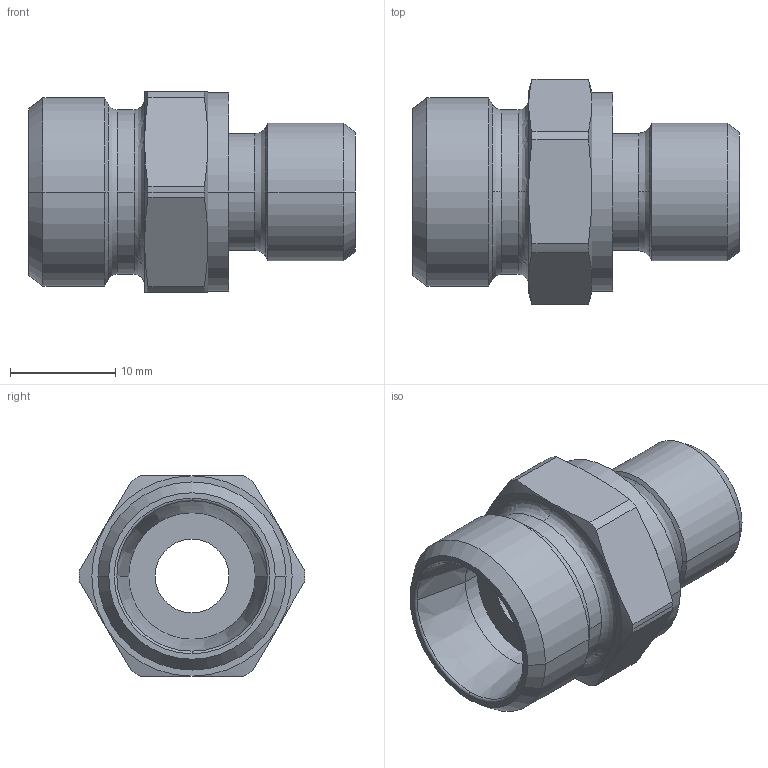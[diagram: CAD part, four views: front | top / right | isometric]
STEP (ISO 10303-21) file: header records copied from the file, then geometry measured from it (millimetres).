
FILE_DESCRIPTION((''),'2;1');
FILE_NAME('100531.stp','2007-10-30T14:35:52',(''),(''),'AutoCAD STEP 2000i','AutoCAD 2000i',', , ');
FILE_SCHEMA(('CONFIG_CONTROL_DESIGN'));
Length unit declared in the file: millimetre
Products named in the file (2): 100531.0; CHIAVE SMUSSATA#0
Assembly tree (1 placements, depth 2):
  100531.0
    CHIAVE SMUSSATA#0
Bounding box: 31 x 21.4 x 19 mm (x, y, z)
Volume: 4361.1 mm3; surface area: 3007.9 mm2
Topology: 1 solids, 1 shells, 75 faces, 185 edges, 117 vertices
Faces by surface type: cylinder 24, cone 24, plane 13, bspline 12, torus 2
Entity records: 2835 total; most frequent: CARTESIAN_POINT 955, DIRECTION 410, ORIENTED_EDGE 370, EDGE_CURVE 185, AXIS2_PLACEMENT_3D 184, CIRCLE 119, VERTEX_POINT 117, EDGE_LOOP 82
